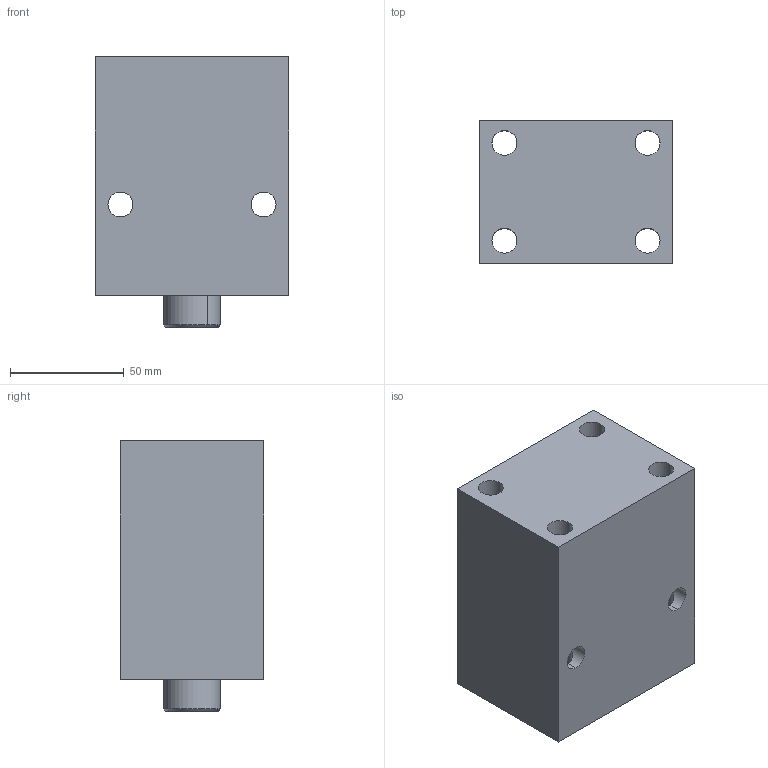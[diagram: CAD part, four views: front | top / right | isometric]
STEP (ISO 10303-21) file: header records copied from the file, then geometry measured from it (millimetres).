
FILE_DESCRIPTION (( 'STEP AP203' ), '1' );
FILE_NAME ('Block cylinder_B01C-350F.STEP', '2022-07-09T18:29:35', ( '' ), ( '' ), 'SwSTEP 2.0', 'SolidWorks 2017', '' );
FILE_SCHEMA (( 'CONFIG_CONTROL_DESIGN' ));
Length unit declared in the file: millimetre
Products named in the file (3): Body_350F_50ST; Piston_350F_50sT; Block cylinder_B01C-350F
Assembly tree (2 placements, depth 2):
  Block cylinder_B01C-350F
    Body_350F_50ST
    Piston_350F_50sT
Bounding box: 85 x 63 x 119 mm (x, y, z)
Volume: 522199.8 mm3; surface area: 72284 mm2
Topology: 2 solids, 2 shells, 349 faces, 955 edges, 623 vertices
Faces by surface type: bspline 165, plane 132, cylinder 44, cone 8
Entity records: 17872 total; most frequent: CARTESIAN_POINT 9915, ORIENTED_EDGE 1898, DIRECTION 1023, EDGE_CURVE 949, VERTEX_POINT 623, VECTOR 529, LINE 529, EDGE_LOOP 388
